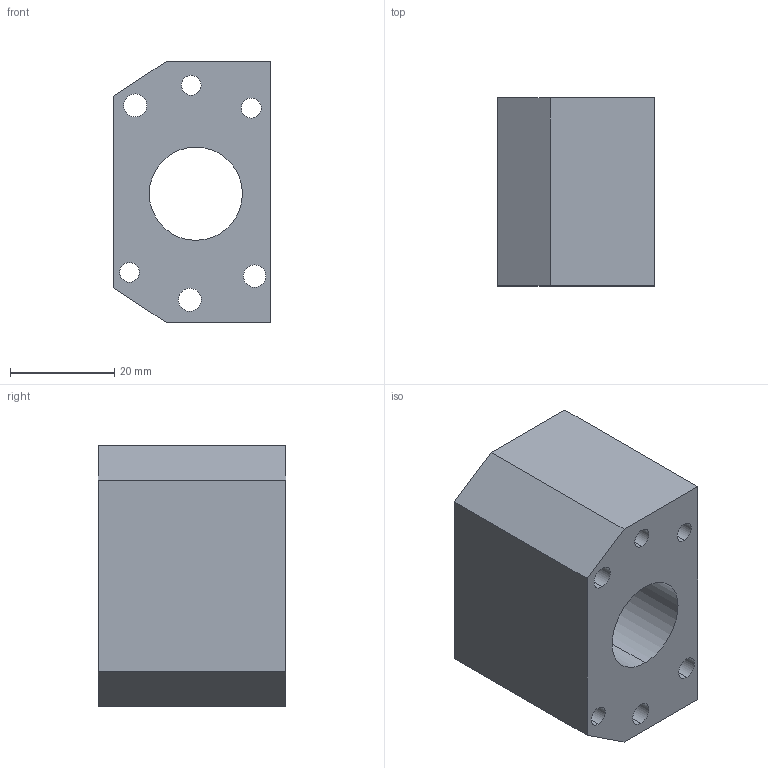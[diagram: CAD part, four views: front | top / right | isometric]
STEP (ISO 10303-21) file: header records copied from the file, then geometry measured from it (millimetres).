
FILE_DESCRIPTION(/* description */ ('STEP AP242 Edition 2','CAx-IF Rec.Pracs.---Representation and Presentation of Product Manufacturing Information (PMI)---4.0---2014-10-13','CAx-IF Rec.Pracs.---3D Tessellated Geometry---0.4---2014-09-14','2;1','CAx-IF Rec.Pracs.---User Defined Attributes---1.5---2016-08-15'),/* implementation_level */ '2;1');
FILE_NAME(/* name */ 'Assembly 1 - Part 12 (1)',/* time_stamp */ '2026-10-08T06:00:13Z',/* author */ (''),/* organization */ (''),/* preprocessor_version */ 'ST-DEVELOPER v20',/* originating_system */ 'ONSHAPE BY PTC INC, 1.221',/* authorisation */ ' ');
FILE_SCHEMA (('AP242_MANAGED_MODEL_BASED_3D_ENGINEERING_MIM_LF { 1 0 10303 442 3 1 4 }'));
Length unit declared in the file: metre
Products named in the file (1): Part 12
Bounding box: 30 x 36 x 50 mm (x, y, z)
Volume: 39744.5 mm3; surface area: 12429.1 mm2
Topology: 1 solids, 1 shells, 22 faces, 60 edges, 40 vertices
Faces by surface type: bspline 22
Entity records: 776 total; most frequent: CARTESIAN_POINT 259, ORIENTED_EDGE 120, DIRECTION 76, EDGE_CURVE 60, VERTEX_POINT 40, EDGE_LOOP 36, FACE_BOUND 36, AXIS2_PLACEMENT_3D 29
